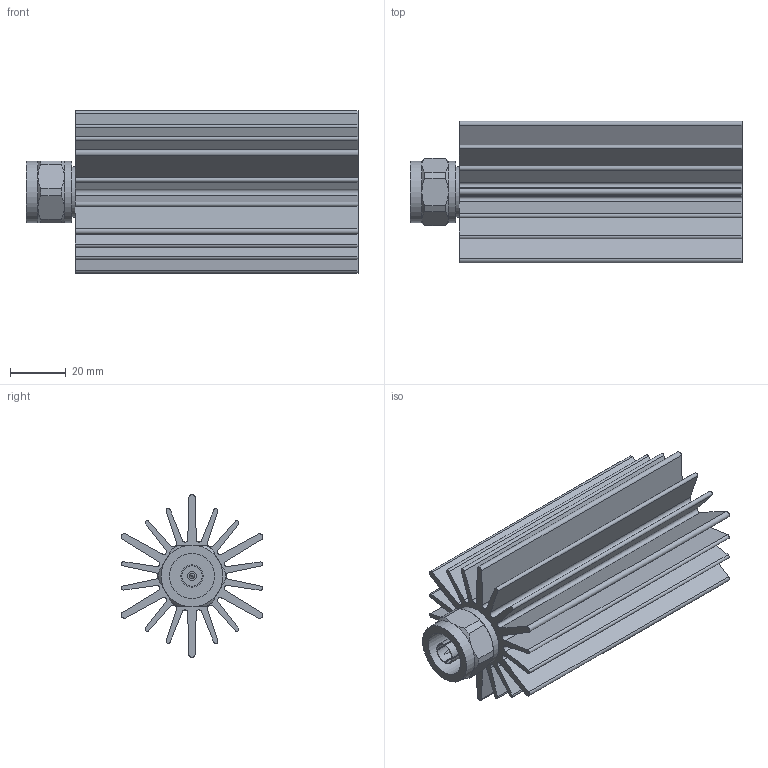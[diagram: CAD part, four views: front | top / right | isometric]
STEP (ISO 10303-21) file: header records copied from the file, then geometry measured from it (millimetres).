
FILE_DESCRIPTION(/* description */ ('Unknown'),/* implementation_level */ '2;1');
FILE_NAME(/* name */ '25-T-MN STEP',/* time_stamp */ '2021-06-03T10:18:45-04:00',/* author */ ('Unknown'),/* organization */ ('Unknown'),/* preprocessor_version */ 'ST-DEVELOPER v16.7',/* originating_system */ 'Solid Edge',/* authorisation */ 'Unknown');
FILE_SCHEMA (('AUTOMOTIVE_DESIGN {1 0 10303 214 3 1 1}'));
Length unit declared in the file: millimetre
Products named in the file (1): 25-T-MN
Bounding box: 119.38 x 50.93 x 58.42 mm (x, y, z)
Volume: 112544.2 mm3; surface area: 62169.5 mm2
Topology: 1 solids, 1 shells, 130 faces, 343 edges, 224 vertices
Faces by surface type: plane 67, cylinder 50, cone 13
Full cylindrical faces by diameter (mm): 1.905 x1, 3.302 x1, 16.299 x1, 18.148 x1, 22.225 x2
Entity records: 4952 total; most frequent: CARTESIAN_POINT 797, DIRECTION 672, ORIENTED_EDGE 670, EDGE_CURVE 335, AXIS2_PLACEMENT_3D 242, VERTEX_POINT 223, LINE 188, VECTOR 188
